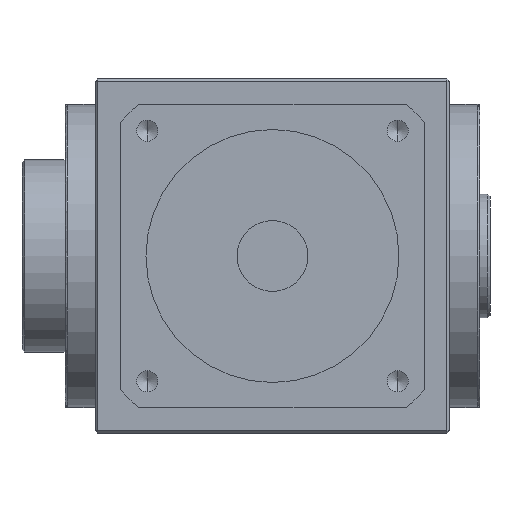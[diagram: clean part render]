
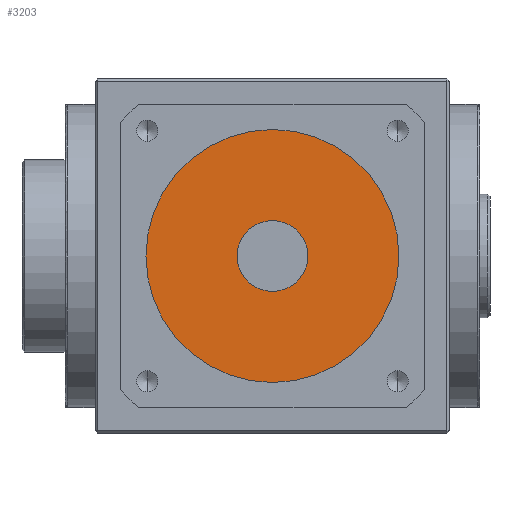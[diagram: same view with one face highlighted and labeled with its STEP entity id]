
A CAD part, front view. The second image highlights one B-rep face of the part: STEP entity #3203.
In plain terms, the highlighted planar face has unit normal (0, -1, 0).
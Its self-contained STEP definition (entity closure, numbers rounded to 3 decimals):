
#49 = CARTESIAN_POINT ( 'NONE',  ( 0., -134., 7. ) ) ;
#290 = DIRECTION ( 'NONE',  ( 0., 0., -1. ) ) ;
#300 = DIRECTION ( 'NONE',  ( 0., -1., 0. ) ) ;
#308 = CARTESIAN_POINT ( 'NONE',  ( 0., -134., 0. ) ) ;
#361 = PLANE ( 'NONE',  #7799 ) ;
#975 = ORIENTED_EDGE ( 'NONE', *, *, #5351, .T. ) ;
#1209 = AXIS2_PLACEMENT_3D ( 'NONE', #4690, #4670, #4666 ) ;
#1504 = CARTESIAN_POINT ( 'NONE',  ( 0., -134., 0. ) ) ;
#1565 = DIRECTION ( 'NONE',  ( 0., -1., 0. ) ) ;
#1890 = CIRCLE ( 'NONE', #5694, 7. ) ;
#2140 = VERTEX_POINT ( 'NONE', #49 ) ;
#2665 = EDGE_LOOP ( 'NONE', ( #975, #3516 ) ) ;
#2837 = EDGE_CURVE ( 'NONE', #8603, #2140, #6452, .T. ) ;
#2957 = CARTESIAN_POINT ( 'NONE',  ( 0., -134., -25. ) ) ;
#2986 = VERTEX_POINT ( 'NONE', #2957 ) ;
#3203 = ADVANCED_FACE ( 'NONE', ( #6891, #7140 ), #361, .T. ) ;
#3214 = DIRECTION ( 'NONE',  ( 0., 0., -1. ) ) ;
#3227 = DIRECTION ( 'NONE',  ( 0., 1., 0. ) ) ;
#3229 = CARTESIAN_POINT ( 'NONE',  ( 0., -134., 0. ) ) ;
#3516 = ORIENTED_EDGE ( 'NONE', *, *, #8293, .T. ) ;
#3559 = CIRCLE ( 'NONE', #5797, 25. ) ;
#3986 = ORIENTED_EDGE ( 'NONE', *, *, #2837, .T. ) ;
#4651 = VERTEX_POINT ( 'NONE', #6005 ) ;
#4666 = DIRECTION ( 'NONE',  ( 0., 0., -1. ) ) ;
#4670 = DIRECTION ( 'NONE',  ( 0., 1., 0. ) ) ;
#4690 = CARTESIAN_POINT ( 'NONE',  ( 0., -134., 0. ) ) ;
#4786 = DIRECTION ( 'NONE',  ( 0., 0., -1. ) ) ;
#4791 = DIRECTION ( 'NONE',  ( 0., -1., 0. ) ) ;
#4796 = CARTESIAN_POINT ( 'NONE',  ( 0., -134., 0. ) ) ;
#5351 = EDGE_CURVE ( 'NONE', #2986, #4651, #3559, .T. ) ;
#5387 = AXIS2_PLACEMENT_3D ( 'NONE', #1504, #1565, #6295 ) ;
#5694 = AXIS2_PLACEMENT_3D ( 'NONE', #3229, #3227, #3214 ) ;
#5797 = AXIS2_PLACEMENT_3D ( 'NONE', #4796, #4791, #4786 ) ;
#6003 = EDGE_CURVE ( 'NONE', #2140, #8603, #1890, .T. ) ;
#6005 = CARTESIAN_POINT ( 'NONE',  ( 0., -134., 25. ) ) ;
#6046 = ORIENTED_EDGE ( 'NONE', *, *, #6003, .T. ) ;
#6215 = EDGE_LOOP ( 'NONE', ( #3986, #6046 ) ) ;
#6295 = DIRECTION ( 'NONE',  ( 0., 0., -1. ) ) ;
#6452 = CIRCLE ( 'NONE', #1209, 7. ) ;
#6830 = CARTESIAN_POINT ( 'NONE',  ( 0., -134., -7. ) ) ;
#6891 = FACE_BOUND ( 'NONE', #6215, .T. ) ;
#7140 = FACE_OUTER_BOUND ( 'NONE', #2665, .T. ) ;
#7799 = AXIS2_PLACEMENT_3D ( 'NONE', #308, #300, #290 ) ;
#7978 = CIRCLE ( 'NONE', #5387, 25. ) ;
#8293 = EDGE_CURVE ( 'NONE', #4651, #2986, #7978, .T. ) ;
#8603 = VERTEX_POINT ( 'NONE', #6830 ) ;
